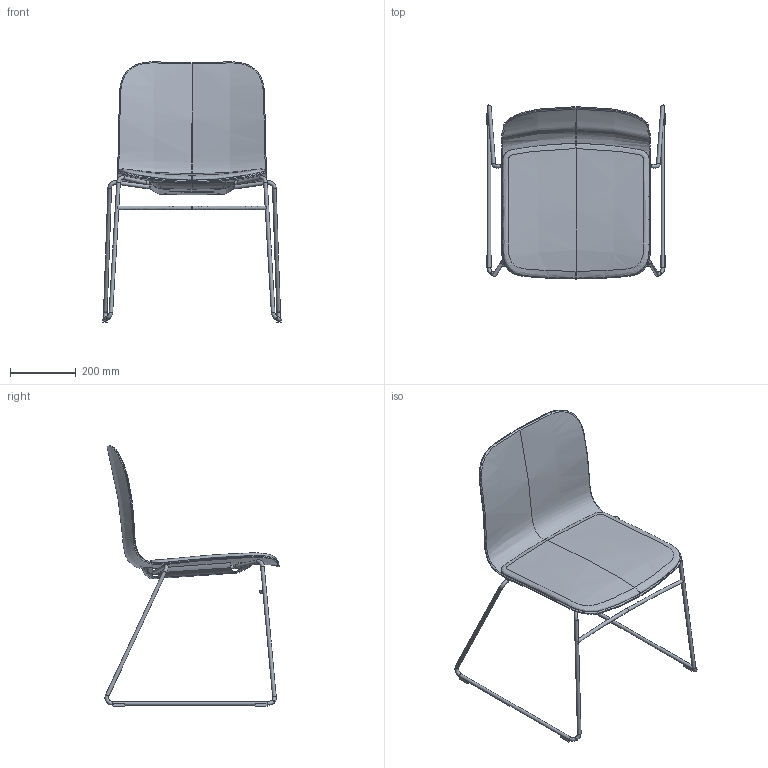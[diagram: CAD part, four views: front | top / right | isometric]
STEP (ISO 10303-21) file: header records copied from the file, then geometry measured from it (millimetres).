
FILE_DESCRIPTION(/* description */ (''),/* implementation_level */ '2;1');
FILE_NAME(/* name */ 'Lambda LA4002-070',/* time_stamp */ '2024-03-04T14:42:34+01:00',/* author */ (''),/* organization */ (''),/* preprocessor_version */ 'ST-DEVELOPER v16.5',/* originating_system */ 'Rhino 7.35',/* authorisation */ '');
FILE_SCHEMA (('CONFIG_CONTROL_DESIGN'));
Length unit declared in the file: millimetre
Products named in the file (1): Document
Bounding box: 543 x 529.05 x 790.34 mm (x, y, z)
Volume: 22149.6 mm3; surface area: 1183798.5 mm2
Topology: 8 solids, 19 shells, 930 faces, 2441 edges, 1620 vertices
Faces by surface type: plane 450, bspline 368, cylinder 112
Full cylindrical faces by diameter (mm): 11 x18, 22 x4
Entity records: 77004 total; most frequent: CARTESIAN_POINT 60719, ORIENTED_EDGE 4814, EDGE_CURVE 2438, B_SPLINE_CURVE_WITH_KNOTS 2305, VERTEX_POINT 1614, EDGE_LOOP 1015, ADVANCED_FACE 930, FACE_OUTER_BOUND 930
